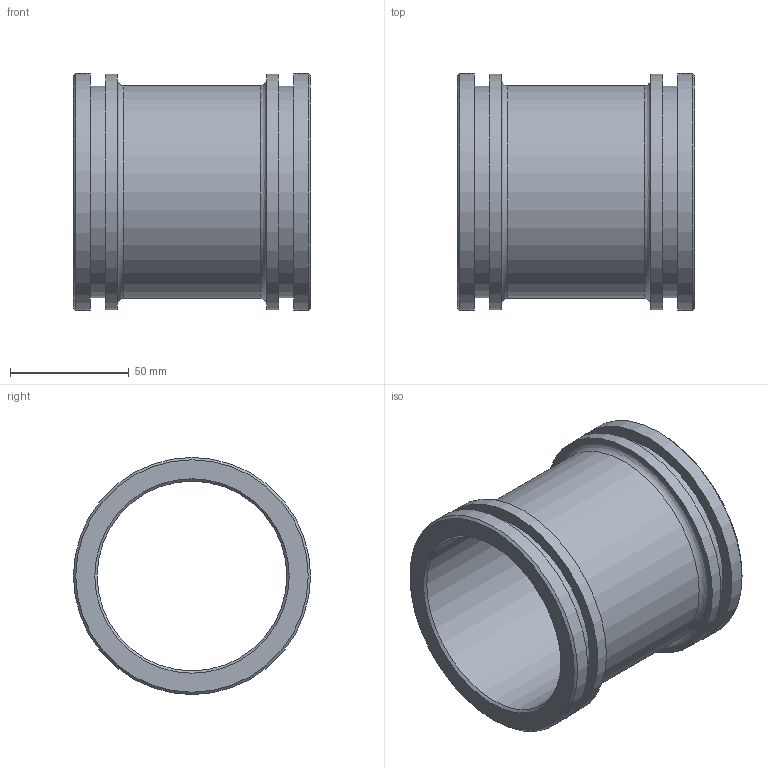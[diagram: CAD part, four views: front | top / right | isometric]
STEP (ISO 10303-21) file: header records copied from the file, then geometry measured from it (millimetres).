
FILE_DESCRIPTION((''),'2;1');
FILE_NAME('N:\CAD\ARCHIV\5350 (-999)\Standardhülsen\5350.080.100\Kundenteil 3D\5350.080.100 für Kunden.stp','2011-05-16T17:17:37',('HWalkhoff'),(''),'Autodesk Inventor 2009','Autodesk Inventor 2009','');
FILE_SCHEMA(('AUTOMOTIVE_DESIGN { 1 0 10303 214 1 1 1 1 }'));
Length unit declared in the file: millimetre
Products named in the file (1): Hülse für Kunden
Bounding box: 100 x 100 x 100 mm (x, y, z)
Volume: 163568.9 mm3; surface area: 67476.3 mm2
Topology: 1 solids, 1 shells, 22 faces, 36 edges, 22 vertices
Faces by surface type: cylinder 8, plane 8, cone 4, bspline 2
Full cylindrical faces by diameter (mm): 80 x1, 89.34 x2, 89.5 x1, 99.5 x2, 100 x2
Entity records: 554 total; most frequent: CARTESIAN_POINT 155, DIRECTION 86, ORIENTED_EDGE 44, EDGE_LOOP 44, AXIS2_PLACEMENT_3D 43, VERTEX_POINT 22, CIRCLE 22, EDGE_CURVE 22
